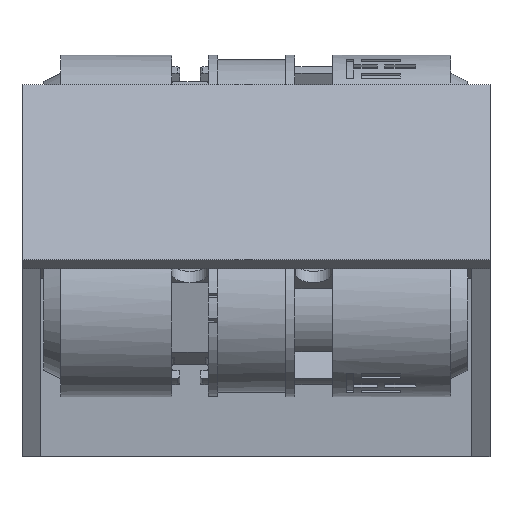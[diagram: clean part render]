
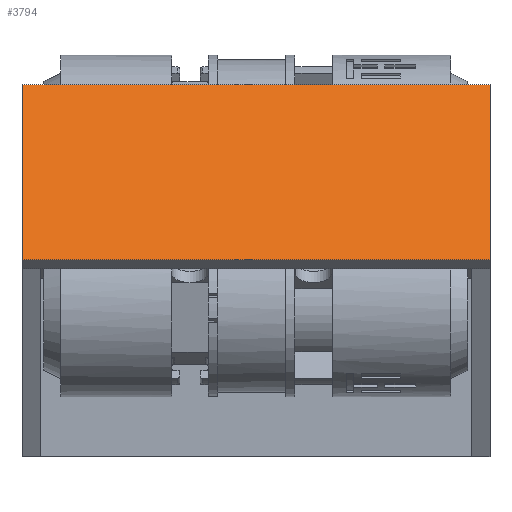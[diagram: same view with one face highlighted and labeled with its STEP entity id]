
A CAD part, left-side view. The second image highlights one B-rep face of the part: STEP entity #3794.
In plain terms, the highlighted planar face has unit normal (-0.866, 0, 0.5).
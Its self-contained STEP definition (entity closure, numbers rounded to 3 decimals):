
#170=PLANE('',#4155);
#384=FACE_OUTER_BOUND('',#598,.T.);
#598=EDGE_LOOP('',(#3454,#3455,#3456,#3457));
#980=LINE('',#6286,#1394);
#984=LINE('',#6295,#1398);
#986=LINE('',#6298,#1400);
#987=LINE('',#6299,#1401);
#1394=VECTOR('',#5163,10.);
#1398=VECTOR('',#5169,10.);
#1400=VECTOR('',#5173,10.);
#1401=VECTOR('',#5174,10.);
#1896=VERTEX_POINT('',#6283);
#1897=VERTEX_POINT('',#6285);
#1900=VERTEX_POINT('',#6292);
#1901=VERTEX_POINT('',#6294);
#2418=EDGE_CURVE('',#1897,#1896,#980,.T.);
#2422=EDGE_CURVE('',#1901,#1900,#984,.T.);
#2424=EDGE_CURVE('',#1896,#1901,#986,.T.);
#2425=EDGE_CURVE('',#1900,#1897,#987,.T.);
#3454=ORIENTED_EDGE('',*,*,#2424,.T.);
#3455=ORIENTED_EDGE('',*,*,#2422,.T.);
#3456=ORIENTED_EDGE('',*,*,#2425,.T.);
#3457=ORIENTED_EDGE('',*,*,#2418,.T.);
#3794=ADVANCED_FACE('',(#384),#170,.T.);
#4155=AXIS2_PLACEMENT_3D('',#6297,#5171,#5172);
#5163=DIRECTION('',(0.,-1.,0.));
#5169=DIRECTION('',(0.,1.,0.));
#5171=DIRECTION('center_axis',(-0.866,0.,0.5));
#5172=DIRECTION('ref_axis',(0.5,0.,0.866));
#5173=DIRECTION('',(0.5,0.,0.866));
#5174=DIRECTION('',(-0.5,0.,-0.866));
#6283=CARTESIAN_POINT('',(-12.276,-1.,0.737));
#6285=CARTESIAN_POINT('',(-12.276,24.46,0.737));
#6286=CARTESIAN_POINT('',(-12.276,-1.,0.737));
#6292=CARTESIAN_POINT('',(-6.776,24.46,10.263));
#6294=CARTESIAN_POINT('',(-6.776,-1.,10.263));
#6295=CARTESIAN_POINT('',(-6.776,24.46,10.263));
#6297=CARTESIAN_POINT('Origin',(-9.526,11.73,5.5));
#6298=CARTESIAN_POINT('',(-6.776,-1.,10.263));
#6299=CARTESIAN_POINT('',(-12.276,24.46,0.737));
